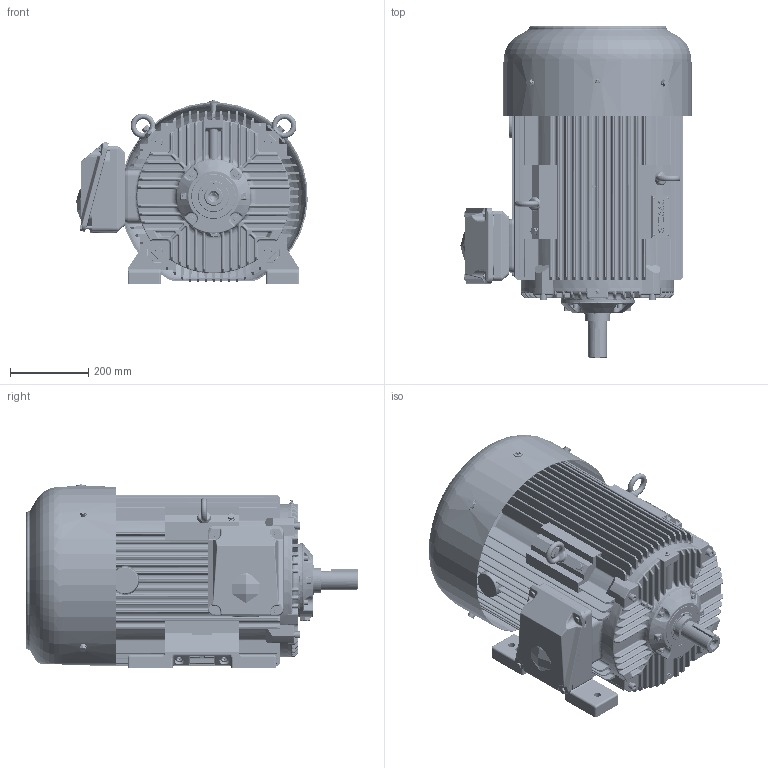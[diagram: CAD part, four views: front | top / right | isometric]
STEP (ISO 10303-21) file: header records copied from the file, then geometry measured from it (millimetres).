
FILE_DESCRIPTION(/* description */ ('Unknown','CAx-IF Rec.Pracs.---Representation and Presentation of Product Manufacturing Information (PMI)---4.0---2014-10-13','CAx-IF Rec.Pracs.---3D Tessellated Geometry---0.4---2014-09-14','2;1'),/* implementation_level */ '2;1');
FILE_NAME(/* name */ 'Silnik NEMA SIE360TS2 - do klienta',/* time_stamp */ '2024-07-08T08:38:22+02:00',/* author */ ('Unknown'),/* organization */ ('Unknown'),/* preprocessor_version */ 'ST-DEVELOPER v16.7',/* originating_system */ 'DEX',/* authorisation */ $);
FILE_SCHEMA (('AP242_MANAGED_MODEL_BASED_3D_ENGINEERING_MIM_LF { 1 0 10303 442 20130219 1 4 }'));
Length unit declared in the file: millimetre
Products named in the file (1): Silnik NEMA SIE360TS2 - do klienta
Bounding box: 592.82 x 850.7 x 473 mm (x, y, z)
Volume: 41420464.8 mm3; surface area: 5752276.1 mm2
Topology: 1 solids, 39 shells, 9953 faces, 26498 edges, 16361 vertices
Faces by surface type: plane 5406, cylinder 2073, bspline 1051, torus 765, sphere 348, cone 310
Full cylindrical faces by diameter (mm): 1.6 x2, 2.5 x2, 3 x10, 3.5 x4, 4.134 x2, 4.917 x3, 5 x5, 5.643 x1, 6 x5, 6.3 x1, 6.4 x2, 6.466 x8, 6.647 x12, 8 x26, 8.376 x7, 8.5 x1, 8.917 x2, 9 x12, 9.853 x8, 10 x22, 10.106 x9, 10.5 x5, 11.63 x1, 12 x16, 13 x10, 13.546 x4, 13.835 x8, 14 x10, 14.63 x1, 16 x8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
Entity records: 350785 total; most frequent: CARTESIAN_POINT 113427, ORIENTED_EDGE 50290, DIRECTION 45999, EDGE_CURVE 25145, VERTEX_POINT 15954, LINE 15387, VECTOR 15387, AXIS2_PLACEMENT_3D 15306
